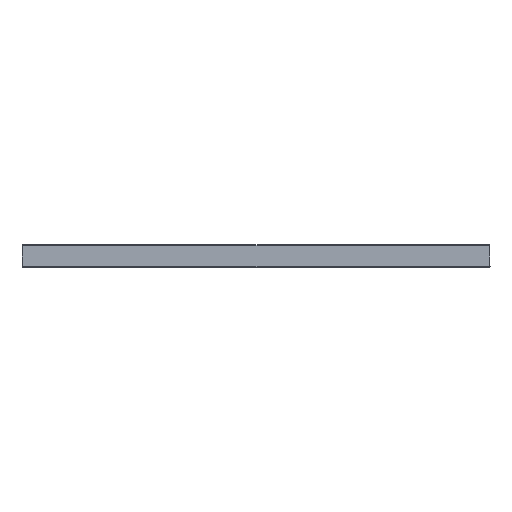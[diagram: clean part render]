
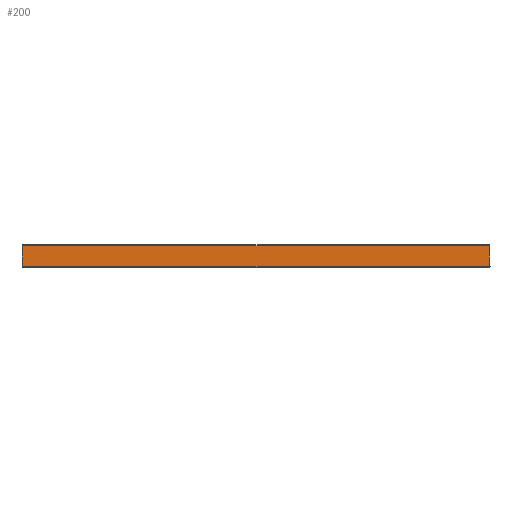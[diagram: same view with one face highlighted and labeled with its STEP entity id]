
A CAD part, front view. The second image highlights one B-rep face of the part: STEP entity #200.
In plain terms, the highlighted planar face has unit normal (0, -1, 0.009).
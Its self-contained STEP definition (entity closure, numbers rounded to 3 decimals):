
#200=ADVANCED_FACE('',(#271),#258,.T.);
#258=PLANE('',#880);
#271=FACE_OUTER_BOUND('',#323,.T.);
#323=EDGE_LOOP('',(#389,#390,#391,#392));
#389=ORIENTED_EDGE('',*,*,#708,.T.);
#390=ORIENTED_EDGE('',*,*,#709,.T.);
#391=ORIENTED_EDGE('',*,*,#710,.T.);
#392=ORIENTED_EDGE('',*,*,#711,.T.);
#635=VERTEX_POINT('',#1115);
#636=VERTEX_POINT('',#1116);
#637=VERTEX_POINT('',#1118);
#638=VERTEX_POINT('',#1120);
#708=EDGE_CURVE('',#635,#636,#831,.T.);
#709=EDGE_CURVE('',#636,#637,#832,.T.);
#710=EDGE_CURVE('',#637,#638,#833,.T.);
#711=EDGE_CURVE('',#638,#635,#834,.T.);
#831=LINE('',#1114,#855);
#832=LINE('',#1117,#856);
#833=LINE('',#1119,#857);
#834=LINE('',#1121,#858);
#855=VECTOR('',#951,1.);
#856=VECTOR('',#952,1.);
#857=VECTOR('',#953,1.);
#858=VECTOR('',#954,1.);
#880=AXIS2_PLACEMENT_3D('',#1122,#955,#956);
#951=DIRECTION('',(-0.009,0.009,1.));
#952=DIRECTION('',(-1.,0.,0.));
#953=DIRECTION('',(-0.009,-0.009,-1.));
#954=DIRECTION('',(1.,0.,0.));
#955=DIRECTION('',(0.,-1.,0.009));
#956=DIRECTION('',(0.,-0.009,-1.));
#1114=CARTESIAN_POINT('',(698.947,-499.947,3.099));
#1115=CARTESIAN_POINT('',(698.991,-499.991,-1.991));
#1116=CARTESIAN_POINT('',(698.721,-499.721,29.009));
#1117=CARTESIAN_POINT('',(0.,-499.721,29.009));
#1118=CARTESIAN_POINT('',(1.279,-499.721,29.009));
#1119=CARTESIAN_POINT('',(1.,-500.,-3.009));
#1120=CARTESIAN_POINT('',(1.009,-499.991,-1.991));
#1121=CARTESIAN_POINT('',(699.,-499.991,-1.991));
#1122=CARTESIAN_POINT('',(0.,-500.,-3.));
